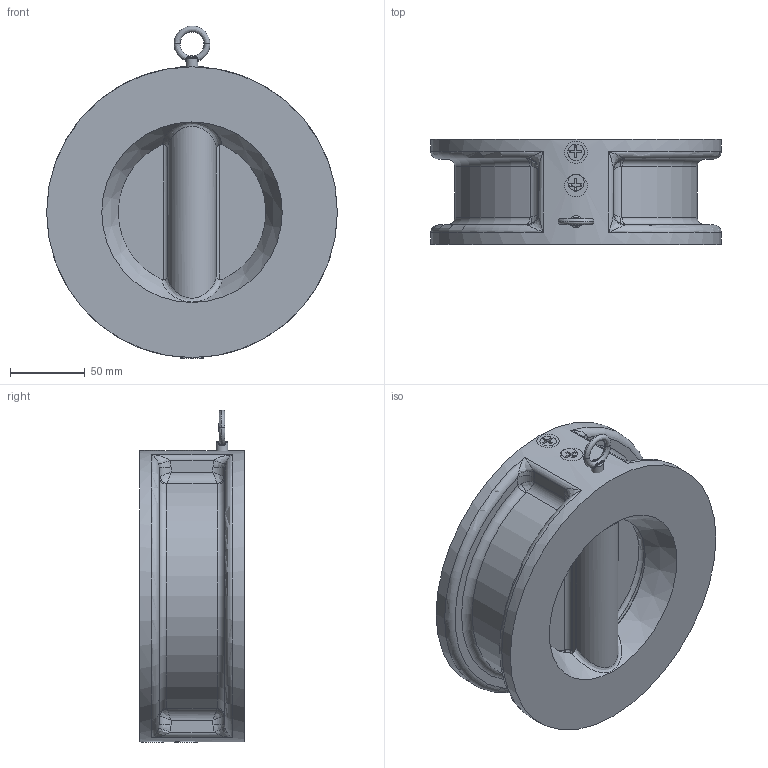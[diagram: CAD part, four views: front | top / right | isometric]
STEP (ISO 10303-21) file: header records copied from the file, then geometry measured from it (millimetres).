
FILE_DESCRIPTION(/* description */ ('','CAx-IF Rec.Pracs.---Representation and Presentation of Product Manufacturing Information (PMI)---4.0---2014-10-13'),/* implementation_level */ '2;1');
FILE_NAME(/* name */ 'E:\WorkSpace\Designs\1700\1700079.stp',/* time_stamp */ '2022-08-05T09:34:13+02:00',/* author */ ('JJ'),/* organization */ (''),/* preprocessor_version */ 'ST-DEVELOPER v18.1',/* originating_system */ 'Autodesk Inventor 2022',/* authorisation */ '');
FILE_SCHEMA (('AP242_MANAGED_MODEL_BASED_3D_ENGINEERING_MIM_LF { 1 0 10303 442 1 1 4 }'));
Products named in the file (1): 1700079
Bounding box: 194 x 70 x 221.49 mm (x, y, z)
Volume: 1010516.6 mm3; surface area: 214163.4 mm2
Topology: 17 solids, 17 shells, 446 faces, 1055 edges, 610 vertices
Faces by surface type: plane 132, cylinder 128, bspline 114, torus 45, cone 18, sphere 9
Full cylindrical faces by diameter (mm): 7 x4, 8 x3, 9 x8, 10 x4, 15 x4, 138.5 x1, 142.5 x1, 194 x1
Entity records: 85988 total; most frequent: CARTESIAN_POINT 76199, ORIENTED_EDGE 2056, DIRECTION 1869, EDGE_CURVE 1028, AXIS2_PLACEMENT_3D 733, VERTEX_POINT 610, EDGE_LOOP 474, FACE_OUTER_BOUND 446
